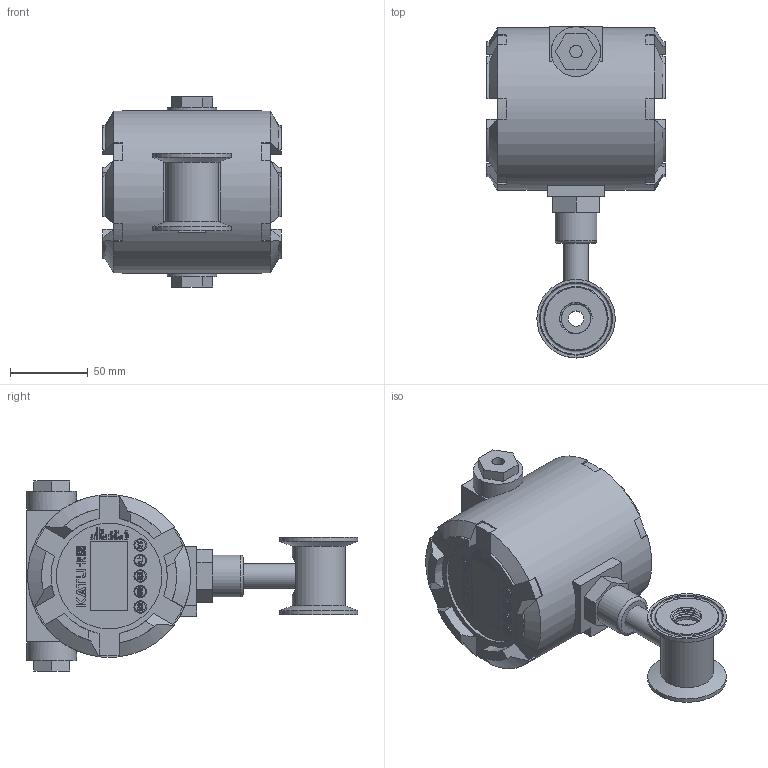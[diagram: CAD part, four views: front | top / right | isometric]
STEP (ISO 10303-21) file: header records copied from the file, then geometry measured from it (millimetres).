
FILE_DESCRIPTION( (''), '2;1');
FILE_NAME( 'QTKC_DN10_tri-clamp_Ex.step', '2024-10-14T11:52:09+08:00', (''), (''), '', '', '');
FILE_SCHEMA (('AUTOMOTIVE_DESIGN { 1 0 10303 214 3 1 1 1 }'));
Length unit declared in the file: millimetre
Products named in the file (1): QTKC DN10_tri-clamp_Ex
Bounding box: 115 x 213.75 x 122.4 mm (x, y, z)
Volume: 990085.1 mm3; surface area: 93704 mm2
Topology: 4 solids, 4 shells, 1344 faces, 3672 edges, 2441 vertices
Faces by surface type: plane 726, extrusion 504, cylinder 74, cone 22, torus 12, bspline 6
Full cylindrical faces by diameter (mm): 3.3 x1, 8 x2, 10 x1, 16 x1, 17 x1, 18.5 x1, 20 x2, 21 x2, 27 x1, 32 x2, 34 x1, 50.5 x2, 68 x1, 105 x1
Entity records: 48055 total; most frequent: CARTESIAN_POINT 16232, ORIENTED_EDGE 7228, DIRECTION 4873, EDGE_CURVE 3614, VECTOR 2785, VERTEX_POINT 2422, LINE 2281, B_SPLINE_CURVE_WITH_KNOTS 1628
